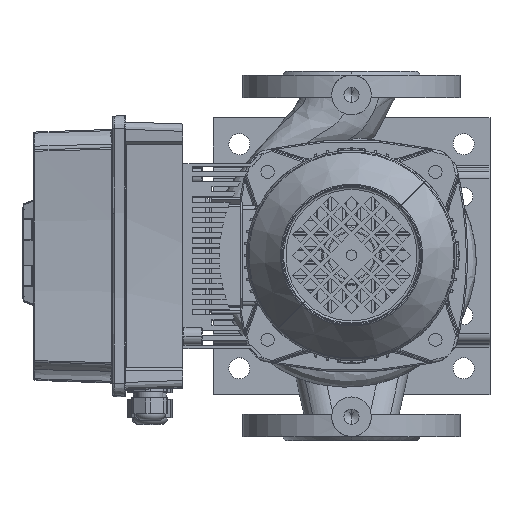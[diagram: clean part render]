
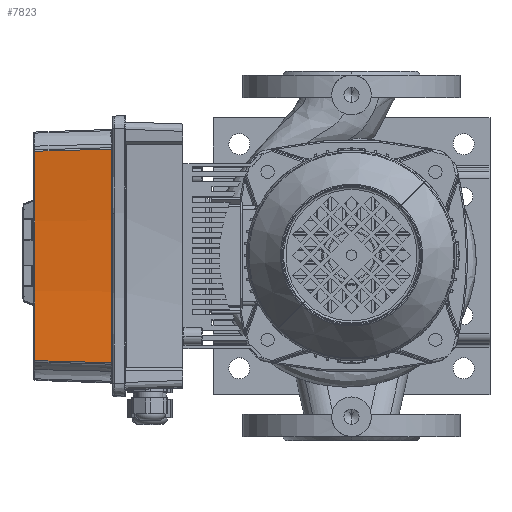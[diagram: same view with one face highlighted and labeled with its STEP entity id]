
A CAD part, top view. The second image highlights one B-rep face of the part: STEP entity #7823.
In plain terms, the highlighted conical face has half-angle 2 degrees and reference radius 845 mm.
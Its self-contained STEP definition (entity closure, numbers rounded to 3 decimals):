
#7823=ADVANCED_FACE('',(#15959),#15960,.F.);
#15959=FACE_OUTER_BOUND('',#37231,.T.);
#15960=CONICAL_SURFACE('',#37232,845.0,0.035);
#37231=EDGE_LOOP('',(#59332,#59333,#59334,#59335));
#37232=AXIS2_PLACEMENT_3D('',#59336,#59337,#59338);
#59332=ORIENTED_EDGE('',*,*,#101668,.F.);
#59333=ORIENTED_EDGE('',*,*,#101723,.F.);
#59334=ORIENTED_EDGE('',*,*,#101684,.F.);
#59335=ORIENTED_EDGE('',*,*,#101712,.F.);
#59336=CARTESIAN_POINT('',(-110.0,1132.065,60.0));
#59337=DIRECTION('',(0.,-0.0,-1.0));
#59338=DIRECTION('',(1.0,0.0,0.));
#101668=EDGE_CURVE('',#132436,#132442,#132443,.T.);
#101684=EDGE_CURVE('',#132463,#132455,#132465,.T.);
#101712=EDGE_CURVE('',#132442,#132463,#132495,.T.);
#101723=EDGE_CURVE('',#132455,#132436,#132507,.T.);
#132436=VERTEX_POINT('',#159089);
#132442=VERTEX_POINT('',#159131);
#132443=B_SPLINE_CURVE_WITH_KNOTS('',3,(#159132,#159133,#159134,#159135,#159136,#159137,#159138,#159139,#159140,#159141,#159142,#159143,#159144,#159145,#159146,#159147,#159148,#159149,#159150,#159151,#159152,#159153,#159154,#159155,#159156),.UNSPECIFIED.,.F.,.F.,(4,3,3,3,3,3,3,3,4),(-60.14,-51.629,-41.43,-35.057,-31.073,-27.089,-20.715,-10.517,-2.006),.UNSPECIFIED.);
#132455=VERTEX_POINT('',#159245);
#132463=VERTEX_POINT('',#159306);
#132465=B_SPLINE_CURVE_WITH_KNOTS('',3,(#159321,#159322,#159323,#159324,#159325,#159326,#159327,#159328,#159329,#159330,#159331,#159332,#159333,#159334,#159335,#159336,#159337,#159338,#159339,#159340,#159341,#159342,#159343,#159344,#159345),.UNSPECIFIED.,.F.,.F.,(4,3,3,3,3,3,3,3,4),(2.006,10.517,20.716,27.09,31.073,35.057,41.431,51.63,60.14),.UNSPECIFIED.);
#132495=CIRCLE('',#159536,847.062);
#132507=CIRCLE('',#159564,845.034);
#159089=CARTESIAN_POINT('',(-190.987,290.921,59.035));
#159131=CARTESIAN_POINT('',(-189.365,288.73,0.965));
#159132=CARTESIAN_POINT('',(-190.987,290.921,59.035));
#159133=CARTESIAN_POINT('',(-190.902,290.814,56.201));
#159134=CARTESIAN_POINT('',(-190.819,290.706,53.368));
#159135=CARTESIAN_POINT('',(-190.736,290.599,50.534));
#159136=CARTESIAN_POINT('',(-190.637,290.47,47.138));
#159137=CARTESIAN_POINT('',(-190.539,290.342,43.743));
#159138=CARTESIAN_POINT('',(-190.442,290.214,40.347));
#159139=CARTESIAN_POINT('',(-190.381,290.133,38.225));
#159140=CARTESIAN_POINT('',(-190.321,290.053,36.103));
#159141=CARTESIAN_POINT('',(-190.261,289.973,33.98));
#159142=CARTESIAN_POINT('',(-190.224,289.923,32.654));
#159143=CARTESIAN_POINT('',(-190.187,289.873,31.327));
#159144=CARTESIAN_POINT('',(-190.15,289.823,30.001));
#159145=CARTESIAN_POINT('',(-190.113,289.773,28.675));
#159146=CARTESIAN_POINT('',(-190.076,289.723,27.348));
#159147=CARTESIAN_POINT('',(-190.04,289.673,26.022));
#159148=CARTESIAN_POINT('',(-189.981,289.593,23.899));
#159149=CARTESIAN_POINT('',(-189.923,289.513,21.777));
#159150=CARTESIAN_POINT('',(-189.865,289.433,19.655));
#159151=CARTESIAN_POINT('',(-189.772,289.305,16.259));
#159152=CARTESIAN_POINT('',(-189.681,289.177,12.863));
#159153=CARTESIAN_POINT('',(-189.59,289.049,9.467));
#159154=CARTESIAN_POINT('',(-189.515,288.943,6.633));
#159155=CARTESIAN_POINT('',(-189.44,288.836,3.799));
#159156=CARTESIAN_POINT('',(-189.365,288.73,0.965));
#159245=CARTESIAN_POINT('',(-29.013,290.921,59.035));
#159306=CARTESIAN_POINT('',(-30.635,288.73,0.965));
#159321=CARTESIAN_POINT('',(-30.635,288.73,0.965));
#159322=CARTESIAN_POINT('',(-30.56,288.836,3.799));
#159323=CARTESIAN_POINT('',(-30.485,288.943,6.633));
#159324=CARTESIAN_POINT('',(-30.41,289.049,9.467));
#159325=CARTESIAN_POINT('',(-30.319,289.177,12.863));
#159326=CARTESIAN_POINT('',(-30.228,289.305,16.259));
#159327=CARTESIAN_POINT('',(-30.135,289.433,19.654));
#159328=CARTESIAN_POINT('',(-30.077,289.513,21.777));
#159329=CARTESIAN_POINT('',(-30.019,289.593,23.899));
#159330=CARTESIAN_POINT('',(-29.96,289.673,26.022));
#159331=CARTESIAN_POINT('',(-29.924,289.723,27.348));
#159332=CARTESIAN_POINT('',(-29.887,289.773,28.674));
#159333=CARTESIAN_POINT('',(-29.85,289.823,30.001));
#159334=CARTESIAN_POINT('',(-29.813,289.873,31.327));
#159335=CARTESIAN_POINT('',(-29.776,289.923,32.654));
#159336=CARTESIAN_POINT('',(-29.739,289.973,33.98));
#159337=CARTESIAN_POINT('',(-29.679,290.053,36.103));
#159338=CARTESIAN_POINT('',(-29.619,290.133,38.225));
#159339=CARTESIAN_POINT('',(-29.558,290.214,40.347));
#159340=CARTESIAN_POINT('',(-29.461,290.342,43.743));
#159341=CARTESIAN_POINT('',(-29.363,290.47,47.139));
#159342=CARTESIAN_POINT('',(-29.264,290.599,50.534));
#159343=CARTESIAN_POINT('',(-29.181,290.706,53.368));
#159344=CARTESIAN_POINT('',(-29.098,290.814,56.201));
#159345=CARTESIAN_POINT('',(-29.013,290.921,59.035));
#159536=AXIS2_PLACEMENT_3D('',#190335,#190336,#190337);
#159564=AXIS2_PLACEMENT_3D('',#190347,#190348,#190349);
#190335=CARTESIAN_POINT('',(-110.0,1132.065,0.965));
#190336=DIRECTION('',(0.,0.,1.0));
#190337=DIRECTION('',(0.0,-1.0,0.));
#190347=CARTESIAN_POINT('',(-110.0,1132.065,59.035));
#190348=DIRECTION('',(-0.0,-0.0,-1.0));
#190349=DIRECTION('',(0.0,-1.0,0.0));
